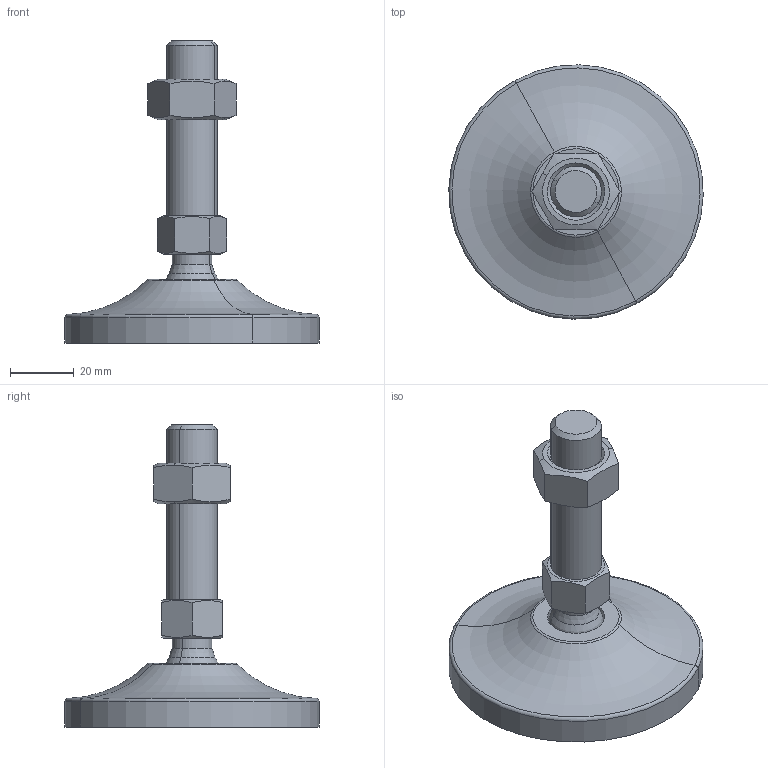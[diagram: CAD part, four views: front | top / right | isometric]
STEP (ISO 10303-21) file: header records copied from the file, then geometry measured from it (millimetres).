
FILE_DESCRIPTION(('CATIA V5 STEP Exchange'),'2;1');
FILE_NAME('C:\Users\ALI OZGUN\Desktop\alhan\saplama2\560801610.stp','2017-09-21T10:34:16+00:00',('none'),('none'),'CATIA Version 5 Release 21 GA (IN-10)','CATIA V5 STEP AP203','none');
FILE_SCHEMA(('CONFIG_CONTROL_DESIGN'));
Length unit declared in the file: millimetre
Products named in the file (1): 560801610
Bounding box: 79.98 x 79.98 x 95 mm (x, y, z)
Volume: 62973.9 mm3; surface area: 21170.1 mm2
Topology: 3 solids, 3 shells, 60 faces, 136 edges, 83 vertices
Faces by surface type: plane 20, cone 16, cylinder 14, torus 6, revolution 2, sphere 2
Entity records: 1852 total; most frequent: CARTESIAN_POINT 610, ORIENTED_EDGE 268, DIRECTION 186, EDGE_CURVE 134, AXIS2_PLACEMENT_3D 100, VERTEX_POINT 83, EDGE_LOOP 67, ADVANCED_FACE 60
